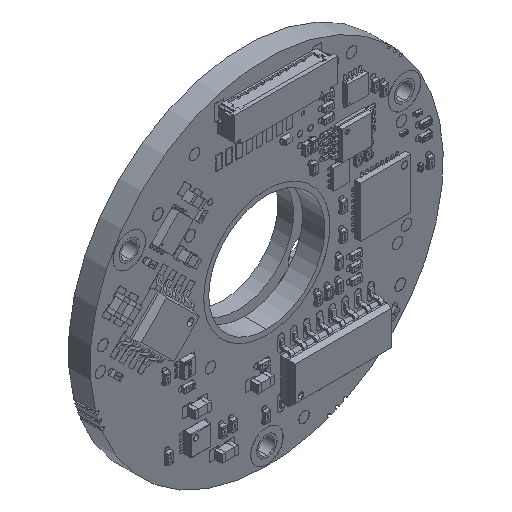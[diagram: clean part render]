
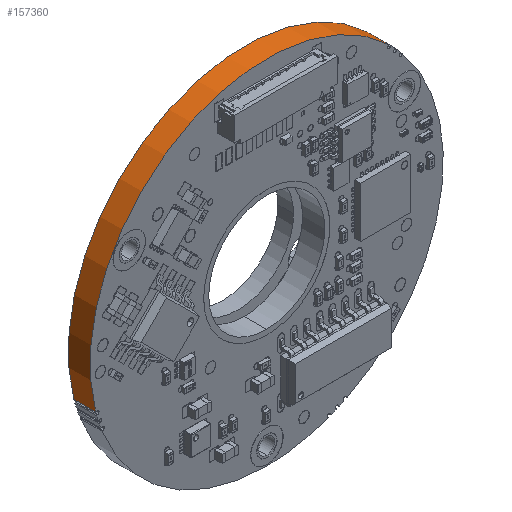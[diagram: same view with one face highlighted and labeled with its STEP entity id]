
A CAD part, isometric view. The second image highlights one B-rep face of the part: STEP entity #157360.
In plain terms, the highlighted cylindrical face has radius 17.5 mm (diameter 35 mm), a partial arc.
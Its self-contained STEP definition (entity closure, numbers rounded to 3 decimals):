
#1018 = CARTESIAN_POINT ( 'NONE',  ( 12.086, 0., 12.656 ) ) ;
#5589 = VERTEX_POINT ( 'NONE', #181142 ) ;
#6853 = CYLINDRICAL_SURFACE ( 'NONE', #56584, 17.5 ) ;
#8329 = EDGE_CURVE ( 'NONE', #5589, #32663, #120749, .T. ) ;
#15551 = DIRECTION ( 'NONE',  ( 0., -1., 0. ) ) ;
#16491 = DIRECTION ( 'NONE',  ( 0., -1., 0. ) ) ;
#32663 = VERTEX_POINT ( 'NONE', #351463 ) ;
#56584 = AXIS2_PLACEMENT_3D ( 'NONE', #148246, #266490, #274143 ) ;
#64999 = EDGE_CURVE ( 'NONE', #134172, #65325, #308644, .T. ) ;
#65325 = VERTEX_POINT ( 'NONE', #1018 ) ;
#70362 = VECTOR ( 'NONE', #16491, 1000. ) ;
#81648 = VECTOR ( 'NONE', #15551, 1000. ) ;
#120749 = CIRCLE ( 'NONE', #281527, 17.5 ) ;
#134172 = VERTEX_POINT ( 'NONE', #291701 ) ;
#140122 = EDGE_CURVE ( 'NONE', #32663, #65325, #165548, .T. ) ;
#148246 = CARTESIAN_POINT ( 'NONE',  ( 0., 2.17, 0. ) ) ;
#152069 = FACE_OUTER_BOUND ( 'NONE', #206334, .T. ) ;
#157360 = ADVANCED_FACE ( 'NONE', ( #152069 ), #6853, .T. ) ;
#165226 = DIRECTION ( 'NONE',  ( 0., 1., 0. ) ) ;
#165548 = LINE ( 'NONE', #190785, #70362 ) ;
#181142 = CARTESIAN_POINT ( 'NONE',  ( -16.943, 2.17, -4.379 ) ) ;
#190785 = CARTESIAN_POINT ( 'NONE',  ( 12.086, 2.201, 12.656 ) ) ;
#206334 = EDGE_LOOP ( 'NONE', ( #375358, #328712, #221303, #356888 ) ) ;
#208094 = EDGE_CURVE ( 'NONE', #5589, #134172, #217080, .T. ) ;
#217080 = LINE ( 'NONE', #249971, #81648 ) ;
#221303 = ORIENTED_EDGE ( 'NONE', *, *, #8329, .F. ) ;
#246982 = DIRECTION ( 'NONE',  ( 0., 1., 0. ) ) ;
#249971 = CARTESIAN_POINT ( 'NONE',  ( -16.943, 2.201, -4.379 ) ) ;
#254386 = DIRECTION ( 'NONE',  ( 0., 0., 1. ) ) ;
#266490 = DIRECTION ( 'NONE',  ( 0., -1., 0. ) ) ;
#274143 = DIRECTION ( 'NONE',  ( 0., 0., -1. ) ) ;
#281527 = AXIS2_PLACEMENT_3D ( 'NONE', #281789, #246982, #370721 ) ;
#281789 = CARTESIAN_POINT ( 'NONE',  ( 0., 2.17, 0. ) ) ;
#291701 = CARTESIAN_POINT ( 'NONE',  ( -16.943, 0., -4.379 ) ) ;
#308644 = CIRCLE ( 'NONE', #382579, 17.5 ) ;
#312520 = CARTESIAN_POINT ( 'NONE',  ( 0., 0., 0. ) ) ;
#328712 = ORIENTED_EDGE ( 'NONE', *, *, #140122, .F. ) ;
#351463 = CARTESIAN_POINT ( 'NONE',  ( 12.086, 2.17, 12.656 ) ) ;
#356888 = ORIENTED_EDGE ( 'NONE', *, *, #208094, .T. ) ;
#370721 = DIRECTION ( 'NONE',  ( 0., 0., 1. ) ) ;
#375358 = ORIENTED_EDGE ( 'NONE', *, *, #64999, .T. ) ;
#382579 = AXIS2_PLACEMENT_3D ( 'NONE', #312520, #165226, #254386 ) ;
